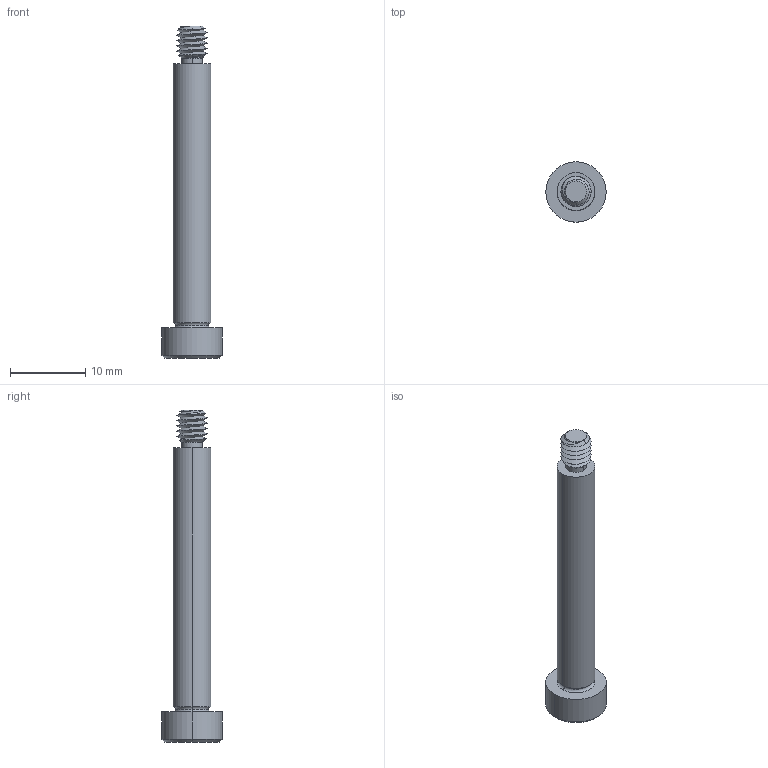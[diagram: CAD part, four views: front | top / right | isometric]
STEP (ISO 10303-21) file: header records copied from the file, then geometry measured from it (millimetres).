
FILE_DESCRIPTION (( 'STEP AP203' ), '1' );
FILE_NAME ('P0130.050-035-B2.step', '2021-11-09T21:17:30', ( '' ), ( '' ), 'SwSTEP 2.0', 'SolidWorks 2019', '' );
FILE_SCHEMA (( 'CONFIG_CONTROL_DESIGN' ));
Length unit declared in the file: millimetre
Products named in the file (1): P0130.050-035-B2
Bounding box: 8 x 8 x 44 mm (x, y, z)
Volume: 911.4 mm3; surface area: 865.3 mm2
Topology: 1 solids, 1 shells, 53 faces, 121 edges, 71 vertices
Faces by surface type: cylinder 16, plane 16, cone 15, torus 4, bspline 2
Entity records: 2151 total; most frequent: CARTESIAN_POINT 968, ORIENTED_EDGE 238, DIRECTION 226, EDGE_CURVE 119, AXIS2_PLACEMENT_3D 92, VERTEX_POINT 71, EDGE_LOOP 56, ADVANCED_FACE 53
